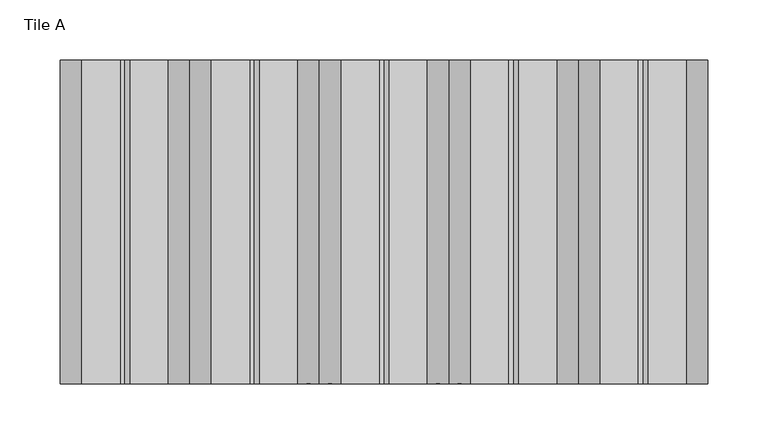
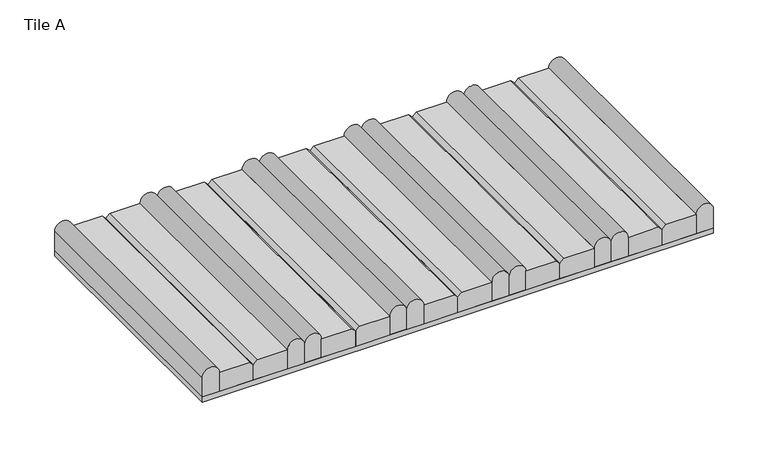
"""IFC4 building model written with IfcOpenShell, lengths in millimetres: proxy geometry, Spinneybeck_Søuld Fragments Manufacturing Drawing : Tile A."""

from ifc_helpers import new_model, si_unit, point, frame, frame_2d, origin, origin_with_axes, place, context, project, spatial, polyline, circle_curve, trimmed, segment, composite_curve, outline, extrude, source, transform, mapped, element, save


def tile_a_04621a4c(model_context):
    return source(origin(), model_context, "Body", "SweptSolid", [
        extrude(outline(polyline([(23.0303228, 0.0), (6.0, 0.0), (6.0, 35.9833333), (27.0, 35.9833333), (27.0, 3.9696772), (23.0303228, 0.0)])), frame((0.0, -134.9375, 0.0), z_axis=(0.0, 1.0, 0.0), x_axis=(0.0, 0.0, 1.0)), (0.0, 0.0, 1.0), 269.875),
        extrude(outline(polyline([(23.0303228, 107.95), (6.0, 107.95), (6.0, 143.9333333), (27.0, 143.9333333), (27.0, 111.9196772), (23.0303228, 107.95)])), frame((0.0, -134.9375, 0.0), z_axis=(0.0, 1.0, 0.0), x_axis=(0.0, 0.0, 1.0)), (0.0, 0.0, 1.0), 269.875),
        extrude(outline(polyline([(23.0303228, 215.9), (6.0, 215.9), (6.0, 251.8833333), (27.0, 251.8833333), (27.0, 219.8696772), (23.0303228, 215.9)])), frame((0.0, -134.9375, 0.0), z_axis=(0.0, 1.0, 0.0), x_axis=(0.0, 0.0, 1.0)), (0.0, 0.0, 1.0), 269.875),
        extrude(outline(polyline([(27.0, -211.9303228), (23.0303228, -215.9), (6.0, -215.9), (6.0, -179.9166667), (27.0, -179.9166667), (27.0, -211.9303228)])), frame((0.0, -134.9375, 0.0), z_axis=(0.0, 1.0, 0.0), x_axis=(0.0, 0.0, 1.0)), (0.0, 0.0, 1.0), 269.875),
        extrude(outline(polyline([(27.0, -103.9803228), (23.0303228, -107.95), (6.0, -107.95), (6.0, -71.9666667), (27.0, -71.9666667), (27.0, -103.9803228)])), frame((0.0, -134.9375, 0.0), z_axis=(0.0, 1.0, 0.0), x_axis=(0.0, 0.0, 1.0)), (0.0, 0.0, 1.0), 269.875),
        extrude(outline(composite_curve([segment(polyline([(6.0, -251.8833333), (27.0, -251.8833333)]), True, "CONTINUOUS"), segment(trimmed(circle_curve(frame_2d((27.0, -260.8791667)), 8.9958333), [point((27.0, -251.8833333))], [point((27.0, -269.875))], False, "CARTESIAN"), True, "CONTINUOUS"), segment(polyline([(27.0, -269.875), (6.0, -269.875), (6.0, -251.8833333)]), True, "CONTINUOUS")], self_intersect=False)), frame((0.0, -134.9375, 0.0), z_axis=(0.0, 1.0, 0.0), x_axis=(0.0, 0.0, 1.0)), (0.0, 0.0, 1.0), 269.875),
        extrude(outline(composite_curve([segment(polyline([(6.0, -161.925), (27.0, -161.925)]), True, "CONTINUOUS"), segment(trimmed(circle_curve(frame_2d((27.0, -170.9208333)), 8.9958333), [point((27.0, -161.925))], [point((27.0, -179.9166667))], False, "CARTESIAN"), True, "CONTINUOUS"), segment(polyline([(27.0, -179.9166667), (6.0, -179.9166667), (6.0, -161.925)]), True, "CONTINUOUS")], self_intersect=False)), frame((0.0, -134.9375, 0.0), z_axis=(0.0, 1.0, 0.0), x_axis=(0.0, 0.0, 1.0)), (0.0, 0.0, 1.0), 269.875),
        extrude(outline(composite_curve([segment(polyline([(6.0, -35.9833333), (27.0, -35.9833333)]), True, "CONTINUOUS"), segment(trimmed(circle_curve(frame_2d((27.0, -44.9791667)), 8.9958333), [point((27.0, -35.9833333))], [point((27.0, -53.975))], False, "CARTESIAN"), True, "CONTINUOUS"), segment(polyline([(27.0, -53.975), (6.0, -53.975), (6.0, -35.9833333)]), True, "CONTINUOUS")], self_intersect=False)), frame((0.0, -134.9375, 0.0), z_axis=(0.0, 1.0, 0.0), x_axis=(0.0, 0.0, 1.0)), (0.0, 0.0, 1.0), 269.875),
        extrude(outline(composite_curve([segment(polyline([(6.0, 251.8833333), (6.0, 269.875), (27.0, 269.875)]), True, "CONTINUOUS"), segment(trimmed(circle_curve(frame_2d((27.0, 260.8791667)), 8.9958333), [point((27.0, 269.875))], [point((27.0, 251.8833333))], False, "CARTESIAN"), True, "CONTINUOUS"), segment(polyline([(27.0, 251.8833333), (6.0, 251.8833333)]), True, "CONTINUOUS")], self_intersect=False)), frame((0.0, -134.9375, 0.0), z_axis=(0.0, 1.0, 0.0), x_axis=(0.0, 0.0, 1.0)), (0.0, 0.0, 1.0), 269.875),
        extrude(outline(composite_curve([segment(polyline([(6.0, 161.925), (6.0, 179.9166667), (27.0, 179.9166667)]), True, "CONTINUOUS"), segment(trimmed(circle_curve(frame_2d((27.0, 170.9208333)), 8.9958333), [point((27.0, 179.9166667))], [point((27.0, 161.925))], False, "CARTESIAN"), True, "CONTINUOUS"), segment(polyline([(27.0, 161.925), (6.0, 161.925)]), True, "CONTINUOUS")], self_intersect=False)), frame((0.0, -134.9375, 0.0), z_axis=(0.0, 1.0, 0.0), x_axis=(0.0, 0.0, 1.0)), (0.0, 0.0, 1.0), 269.875),
        extrude(outline(composite_curve([segment(polyline([(6.0, 35.9833333), (6.0, 53.975), (27.0, 53.975)]), True, "CONTINUOUS"), segment(trimmed(circle_curve(frame_2d((27.0, 44.9791667)), 8.9958333), [point((27.0, 53.975))], [point((27.0, 35.9833333))], False, "CARTESIAN"), True, "CONTINUOUS"), segment(polyline([(27.0, 35.9833333), (6.0, 35.9833333)]), True, "CONTINUOUS")], self_intersect=False)), frame((0.0, -134.9375, 0.0), z_axis=(0.0, 1.0, 0.0), x_axis=(0.0, 0.0, 1.0)), (0.0, 0.0, 1.0), 269.875),
        extrude(outline(polyline([(23.0303228, -215.9), (27.0, -219.8696772), (27.0, -251.8833333), (6.0, -251.8833333), (6.0, -215.9), (23.0303228, -215.9)])), frame((0.0, -134.9375, 0.0), z_axis=(0.0, 1.0, 0.0), x_axis=(0.0, 0.0, 1.0)), (0.0, 0.0, 1.0), 269.875),
        extrude(outline(polyline([(23.0303228, -107.95), (27.0, -111.9196772), (27.0, -143.9333333), (6.0, -143.9333333), (6.0, -107.95), (23.0303228, -107.95)])), frame((0.0, -134.9375, 0.0), z_axis=(0.0, 1.0, 0.0), x_axis=(0.0, 0.0, 1.0)), (0.0, 0.0, 1.0), 269.875),
        extrude(outline(polyline([(23.0303228, 0.0), (27.0, -3.9696772), (27.0, -35.9833333), (6.0, -35.9833333), (6.0, 0.0), (23.0303228, 0.0)])), frame((0.0, -134.9375, 0.0), z_axis=(0.0, 1.0, 0.0), x_axis=(0.0, 0.0, 1.0)), (0.0, 0.0, 1.0), 269.875),
        extrude(outline(polyline([(27.0, 103.9803228), (27.0, 71.9666667), (6.0, 71.9666667), (6.0, 107.95), (23.0303228, 107.95), (27.0, 103.9803228)])), frame((0.0, -134.9375, 0.0), z_axis=(0.0, 1.0, 0.0), x_axis=(0.0, 0.0, 1.0)), (0.0, 0.0, 1.0), 269.875),
        extrude(outline(polyline([(27.0, 211.9303228), (27.0, 179.9166667), (6.0, 179.9166667), (6.0, 215.9), (23.0303228, 215.9), (27.0, 211.9303228)])), frame((0.0, -134.9375, 0.0), z_axis=(0.0, 1.0, 0.0), x_axis=(0.0, 0.0, 1.0)), (0.0, 0.0, 1.0), 269.875),
        extrude(outline(polyline([(269.875, 134.9375), (269.875, -134.9375), (-269.875, -134.9375), (-269.875, 134.9375), (269.875, 134.9375)])), origin_with_axes(), (0.0, 0.0, 1.0), 6.0),
        extrude(outline(composite_curve([segment(trimmed(circle_curve(frame_2d((27.0, -152.9291667)), 8.9958333), [point((27.0, -143.9333333))], [point((27.0, -161.925))], False, "CARTESIAN"), True, "CONTINUOUS"), segment(polyline([(27.0, -161.925), (6.0, -161.925), (6.0, -143.9333333), (27.0, -143.9333333)]), True, "CONTINUOUS")], self_intersect=False)), frame((0.0, -134.9375, 0.0), z_axis=(0.0, 1.0, 0.0), x_axis=(0.0, 0.0, 1.0)), (0.0, 0.0, 1.0), 269.875),
        extrude(outline(composite_curve([segment(trimmed(circle_curve(frame_2d((27.0, -62.9708333)), 8.9958333), [point((27.0, -53.975))], [point((27.0, -71.9666667))], False, "CARTESIAN"), True, "CONTINUOUS"), segment(polyline([(27.0, -71.9666667), (6.0, -71.9666667), (6.0, -53.975), (27.0, -53.975)]), True, "CONTINUOUS")], self_intersect=False)), frame((0.0, -134.9375, 0.0), z_axis=(0.0, 1.0, 0.0), x_axis=(0.0, 0.0, 1.0)), (0.0, 0.0, 1.0), 269.875),
        extrude(outline(composite_curve([segment(polyline([(27.0, 143.9333333), (6.0, 143.9333333), (6.0, 161.925), (27.0, 161.925)]), True, "CONTINUOUS"), segment(trimmed(circle_curve(frame_2d((27.0, 152.9291667)), 8.9958333), [point((27.0, 161.925))], [point((27.0, 143.9333333))], False, "CARTESIAN"), True, "CONTINUOUS")], self_intersect=False)), frame((0.0, -134.9375, 0.0), z_axis=(0.0, 1.0, 0.0), x_axis=(0.0, 0.0, 1.0)), (0.0, 0.0, 1.0), 269.875),
        extrude(outline(composite_curve([segment(polyline([(27.0, 53.975), (6.0, 53.975), (6.0, 71.9666667), (27.0, 71.9666667)]), True, "CONTINUOUS"), segment(trimmed(circle_curve(frame_2d((27.0, 62.9708333)), 8.9958333), [point((27.0, 71.9666667))], [point((27.0, 53.975))], False, "CARTESIAN"), True, "CONTINUOUS")], self_intersect=False)), frame((0.0, -134.9375, 0.0), z_axis=(0.0, 1.0, 0.0), x_axis=(0.0, 0.0, 1.0)), (0.0, 0.0, 1.0), 269.875),
    ])


if __name__ == "__main__":
    model = new_model("IFC4")
    model_context = context("Model", 3, world=origin())
    ifc_project = project(units=[si_unit("LENGTHUNIT", "METRE", prefix="MILLI")], contexts=[model_context])
    site = spatial("IfcSite", under=ifc_project)
    building = spatial("IfcBuilding", under=site)
    placement = place(None, origin())
    tile_a_shape = tile_a_04621a4c(model_context)
    element("IfcBuildingElementProxy", 1, Name="Spinneybeck_Søuld Fragments Manufacturing Drawing : Tile A", ObjectType="Spinneybeck_Søuld Fragments Manufacturing Drawing : Tile A", at=placement, inside=building, context=model_context, shape_type="MappedRepresentation", body=[
        mapped(tile_a_shape, transform((0.0, 0.0, 0.0), x_axis=(1.0, 0.0, 0.0), y_axis=(0.0, 1.0, 0.0), z_axis=(0.0, 0.0, 1.0))),
    ])
    save(model, "model.ifc")
